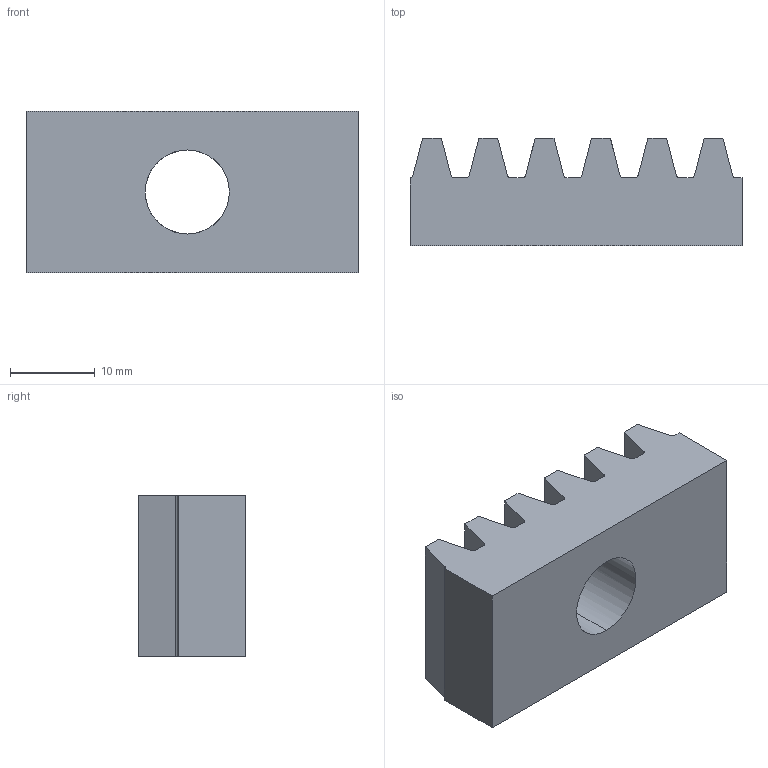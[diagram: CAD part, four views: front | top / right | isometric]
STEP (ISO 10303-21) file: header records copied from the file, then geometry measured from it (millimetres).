
FILE_DESCRIPTION (( 'STEP AP203' ), '1' );
FILE_NAME ('269-18-411.STEP', '2020-03-02T21:05:44', ( '' ), ( '' ), 'SwSTEP 2.0', 'SolidWorks 2017', '' );
FILE_SCHEMA (( 'CONFIG_CONTROL_DESIGN' ));
Length unit declared in the file: inch
Products named in the file (1): 269-18-411
Bounding box: 39.2 x 12.7 x 19.05 mm (x, y, z)
Volume: 6995.7 mm3; surface area: 3554.1 mm2
Topology: 1 solids, 1 shells, 50 faces, 147 edges, 98 vertices
Faces by surface type: plane 34, cylinder 16
Entity records: 1760 total; most frequent: CARTESIAN_POINT 334, ORIENTED_EDGE 294, DIRECTION 273, EDGE_CURVE 147, VECTOR 103, LINE 103, VERTEX_POINT 98, AXIS2_PLACEMENT_3D 85
